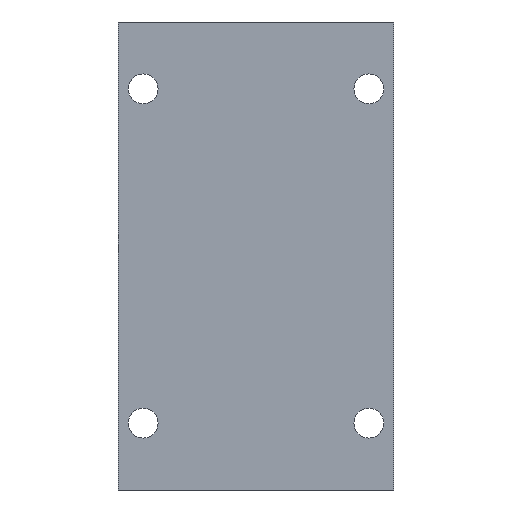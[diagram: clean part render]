
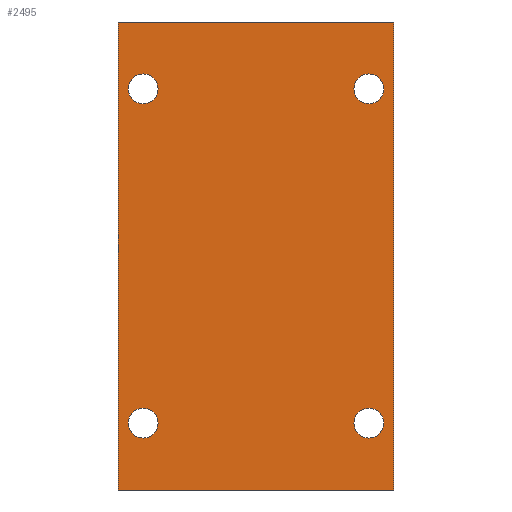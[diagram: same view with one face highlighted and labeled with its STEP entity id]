
A CAD part, front view. The second image highlights one B-rep face of the part: STEP entity #2495.
In plain terms, the highlighted planar face has unit normal (0, -1, 0).
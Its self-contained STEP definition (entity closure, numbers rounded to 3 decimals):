
#22 = CARTESIAN_POINT ( 'NONE',  ( -54., -52.5, 72.875 ) ) ;
#41 = DIRECTION ( 'NONE',  ( 0., -1., 0. ) ) ;
#46 = DIRECTION ( 'NONE',  ( 0., -1., 0. ) ) ;
#52 = DIRECTION ( 'NONE',  ( 0., 0., -1. ) ) ;
#54 = VERTEX_POINT ( 'NONE', #826 ) ;
#55 = LINE ( 'NONE', #1734, #1893 ) ;
#72 = DIRECTION ( 'NONE',  ( 0., -1., 0. ) ) ;
#179 = DIRECTION ( 'NONE',  ( 1., 0., 0. ) ) ;
#205 = DIRECTION ( 'NONE',  ( 0., -1., 0. ) ) ;
#206 = VERTEX_POINT ( 'NONE', #22 ) ;
#220 = FACE_OUTER_BOUND ( 'NONE', #1871, .T. ) ;
#243 = CARTESIAN_POINT ( 'NONE',  ( -54., -52.5, -80. ) ) ;
#259 = DIRECTION ( 'NONE',  ( 0., 0., -1. ) ) ;
#261 = VERTEX_POINT ( 'NONE', #1354 ) ;
#287 = CARTESIAN_POINT ( 'NONE',  ( -54., -52.5, 80. ) ) ;
#297 = ORIENTED_EDGE ( 'NONE', *, *, #979, .F. ) ;
#302 = CARTESIAN_POINT ( 'NONE',  ( -66., -52.5, 112. ) ) ;
#335 = DIRECTION ( 'NONE',  ( 1., 0., 0. ) ) ;
#476 = AXIS2_PLACEMENT_3D ( 'NONE', #287, #41, #2753 ) ;
#572 = ORIENTED_EDGE ( 'NONE', *, *, #1946, .F. ) ;
#658 = DIRECTION ( 'NONE',  ( 0., 1., 0. ) ) ;
#664 = EDGE_LOOP ( 'NONE', ( #572, #1982 ) ) ;
#673 = DIRECTION ( 'NONE',  ( 0., 0., 1. ) ) ;
#692 = ORIENTED_EDGE ( 'NONE', *, *, #2381, .F. ) ;
#703 = FACE_BOUND ( 'NONE', #2891, .T. ) ;
#771 = DIRECTION ( 'NONE',  ( 0., 0., -1. ) ) ;
#826 = CARTESIAN_POINT ( 'NONE',  ( -54., -52.5, 87.125 ) ) ;
#846 = AXIS2_PLACEMENT_3D ( 'NONE', #243, #46, #1455 ) ;
#910 = PLANE ( 'NONE',  #3096 ) ;
#918 = VERTEX_POINT ( 'NONE', #1931 ) ;
#960 = DIRECTION ( 'NONE',  ( 0., -1., 0. ) ) ;
#975 = EDGE_CURVE ( 'NONE', #918, #1170, #2541, .T. ) ;
#979 = EDGE_CURVE ( 'NONE', #3135, #2862, #1575, .T. ) ;
#988 = ORIENTED_EDGE ( 'NONE', *, *, #2463, .F. ) ;
#1006 = DIRECTION ( 'NONE',  ( 0., 0., -1. ) ) ;
#1111 = CARTESIAN_POINT ( 'NONE',  ( 66., -52.5, 112. ) ) ;
#1132 = CARTESIAN_POINT ( 'NONE',  ( 54., -52.5, -72.875 ) ) ;
#1163 = AXIS2_PLACEMENT_3D ( 'NONE', #2388, #205, #1186 ) ;
#1170 = VERTEX_POINT ( 'NONE', #1676 ) ;
#1178 = VECTOR ( 'NONE', #2779, 1000. ) ;
#1186 = DIRECTION ( 'NONE',  ( 0., 0., -1. ) ) ;
#1198 = CARTESIAN_POINT ( 'NONE',  ( 54., -52.5, 80. ) ) ;
#1206 = CIRCLE ( 'NONE', #846, 7.125 ) ;
#1231 = AXIS2_PLACEMENT_3D ( 'NONE', #2219, #2276, #2007 ) ;
#1244 = ORIENTED_EDGE ( 'NONE', *, *, #1626, .F. ) ;
#1254 = CARTESIAN_POINT ( 'NONE',  ( -54., -52.5, 80. ) ) ;
#1354 = CARTESIAN_POINT ( 'NONE',  ( -54., -52.5, -87.125 ) ) ;
#1370 = CARTESIAN_POINT ( 'NONE',  ( -66., -52.5, 112. ) ) ;
#1373 = VECTOR ( 'NONE', #179, 1000. ) ;
#1414 = VECTOR ( 'NONE', #1006, 1000. ) ;
#1455 = DIRECTION ( 'NONE',  ( 0., 0., -1. ) ) ;
#1460 = LINE ( 'NONE', #2698, #1414 ) ;
#1533 = LINE ( 'NONE', #2812, #1178 ) ;
#1565 = VERTEX_POINT ( 'NONE', #2972 ) ;
#1569 = VERTEX_POINT ( 'NONE', #302 ) ;
#1575 = CIRCLE ( 'NONE', #1985, 7.125 ) ;
#1626 = EDGE_CURVE ( 'NONE', #54, #206, #1738, .T. ) ;
#1645 = EDGE_CURVE ( 'NONE', #206, #54, #1692, .T. ) ;
#1649 = FACE_BOUND ( 'NONE', #1698, .T. ) ;
#1676 = CARTESIAN_POINT ( 'NONE',  ( 54., -52.5, 87.125 ) ) ;
#1678 = CIRCLE ( 'NONE', #2032, 7.125 ) ;
#1681 = EDGE_CURVE ( 'NONE', #2825, #2566, #2360, .T. ) ;
#1692 = CIRCLE ( 'NONE', #476, 7.125 ) ;
#1698 = EDGE_LOOP ( 'NONE', ( #2085, #1992 ) ) ;
#1734 = CARTESIAN_POINT ( 'NONE',  ( -66., -52.5, 112. ) ) ;
#1738 = CIRCLE ( 'NONE', #2604, 7.125 ) ;
#1764 = VERTEX_POINT ( 'NONE', #1111 ) ;
#1819 = ORIENTED_EDGE ( 'NONE', *, *, #1681, .T. ) ;
#1871 = EDGE_LOOP ( 'NONE', ( #1819, #692, #2793, #3084 ) ) ;
#1883 = EDGE_CURVE ( 'NONE', #1569, #1764, #55, .T. ) ;
#1893 = VECTOR ( 'NONE', #335, 1000. ) ;
#1931 = CARTESIAN_POINT ( 'NONE',  ( 54., -52.5, 72.875 ) ) ;
#1946 = EDGE_CURVE ( 'NONE', #261, #1565, #3008, .T. ) ;
#1982 = ORIENTED_EDGE ( 'NONE', *, *, #3024, .F. ) ;
#1985 = AXIS2_PLACEMENT_3D ( 'NONE', #2172, #2259, #52 ) ;
#1992 = ORIENTED_EDGE ( 'NONE', *, *, #3002, .F. ) ;
#2007 = DIRECTION ( 'NONE',  ( 0., 0., -1. ) ) ;
#2032 = AXIS2_PLACEMENT_3D ( 'NONE', #3132, #960, #2618 ) ;
#2082 = CARTESIAN_POINT ( 'NONE',  ( 54., -52.5, -87.125 ) ) ;
#2085 = ORIENTED_EDGE ( 'NONE', *, *, #975, .F. ) ;
#2172 = CARTESIAN_POINT ( 'NONE',  ( 54., -52.5, -80. ) ) ;
#2219 = CARTESIAN_POINT ( 'NONE',  ( -54., -52.5, -80. ) ) ;
#2259 = DIRECTION ( 'NONE',  ( 0., -1., 0. ) ) ;
#2276 = DIRECTION ( 'NONE',  ( 0., -1., 0. ) ) ;
#2279 = AXIS2_PLACEMENT_3D ( 'NONE', #1198, #2918, #259 ) ;
#2287 = CARTESIAN_POINT ( 'NONE',  ( -66., -52.5, -112. ) ) ;
#2336 = ORIENTED_EDGE ( 'NONE', *, *, #1645, .F. ) ;
#2360 = LINE ( 'NONE', #2596, #1373 ) ;
#2381 = EDGE_CURVE ( 'NONE', #1764, #2566, #1533, .T. ) ;
#2385 = EDGE_LOOP ( 'NONE', ( #297, #988 ) ) ;
#2388 = CARTESIAN_POINT ( 'NONE',  ( 54., -52.5, 80. ) ) ;
#2463 = EDGE_CURVE ( 'NONE', #2862, #3135, #1678, .T. ) ;
#2495 = ADVANCED_FACE ( 'NONE', ( #1649, #3143, #2589, #220, #703 ), #910, .F. ) ;
#2541 = CIRCLE ( 'NONE', #1163, 7.125 ) ;
#2557 = EDGE_CURVE ( 'NONE', #1569, #2825, #1460, .T. ) ;
#2566 = VERTEX_POINT ( 'NONE', #2906 ) ;
#2589 = FACE_BOUND ( 'NONE', #2385, .T. ) ;
#2596 = CARTESIAN_POINT ( 'NONE',  ( -66., -52.5, -112. ) ) ;
#2604 = AXIS2_PLACEMENT_3D ( 'NONE', #1254, #72, #771 ) ;
#2618 = DIRECTION ( 'NONE',  ( 0., 0., -1. ) ) ;
#2698 = CARTESIAN_POINT ( 'NONE',  ( -66., -52.5, 112. ) ) ;
#2753 = DIRECTION ( 'NONE',  ( 0., 0., -1. ) ) ;
#2779 = DIRECTION ( 'NONE',  ( 0., 0., -1. ) ) ;
#2782 = CIRCLE ( 'NONE', #2279, 7.125 ) ;
#2793 = ORIENTED_EDGE ( 'NONE', *, *, #1883, .F. ) ;
#2812 = CARTESIAN_POINT ( 'NONE',  ( 66., -52.5, 112. ) ) ;
#2825 = VERTEX_POINT ( 'NONE', #2287 ) ;
#2862 = VERTEX_POINT ( 'NONE', #1132 ) ;
#2891 = EDGE_LOOP ( 'NONE', ( #2336, #1244 ) ) ;
#2906 = CARTESIAN_POINT ( 'NONE',  ( 66., -52.5, -112. ) ) ;
#2918 = DIRECTION ( 'NONE',  ( 0., -1., 0. ) ) ;
#2972 = CARTESIAN_POINT ( 'NONE',  ( -54., -52.5, -72.875 ) ) ;
#3002 = EDGE_CURVE ( 'NONE', #1170, #918, #2782, .T. ) ;
#3008 = CIRCLE ( 'NONE', #1231, 7.125 ) ;
#3024 = EDGE_CURVE ( 'NONE', #1565, #261, #1206, .T. ) ;
#3084 = ORIENTED_EDGE ( 'NONE', *, *, #2557, .T. ) ;
#3096 = AXIS2_PLACEMENT_3D ( 'NONE', #1370, #658, #673 ) ;
#3132 = CARTESIAN_POINT ( 'NONE',  ( 54., -52.5, -80. ) ) ;
#3135 = VERTEX_POINT ( 'NONE', #2082 ) ;
#3143 = FACE_BOUND ( 'NONE', #664, .T. ) ;
